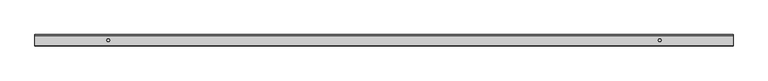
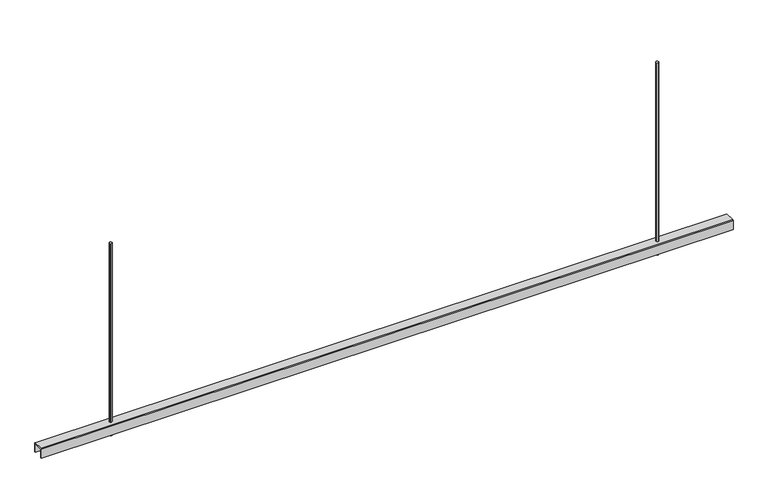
"""IFC4 building model written with IfcOpenShell, lengths in millimetres: proxy geometry, Beared-Hanger : BearedHanger."""

import ifcopenshell
import ifcopenshell.guid

model = None  # the IFC model being written
_history = None  # IfcOwnerHistory: only IFC2X3 demands one
_inside = {}  # id of a spatial element -> (the spatial element, [elements in it])
_under = {}  # id of a project, library or spatial element -> (it, [spatial elements below it])
_declared = {}  # id of a project -> (the project, [libraries it declares])
_typed = {}  # id of a type object -> (the type object, [elements of that type])
_made_of = {}  # id of a material, layer set ... -> (it, [elements and type objects made of it])


def new_model(schema):
    """Start an empty IFC model of exactly this schema.

    Asked for "IFC4X3", IfcOpenShell would pick the latest addendum, in which some entities
    have other attributes; the version numbers below select the first issue.
    IFC2X3 requires an IfcOwnerHistory on every rooted entity: one is made here for all.
    """
    global model, _history
    if schema == "IFC4X3":
        model = ifcopenshell.file(schema_version=(4, 3, 0, 0))
    else:
        model = ifcopenshell.file(schema=schema)
    _inside.clear()
    _under.clear()
    _declared.clear()
    _typed.clear()
    _made_of.clear()
    _history = None
    if model.schema == "IFC2X3":
        org = make("IfcOrganization", Name="unknown")
        user = make(
            "IfcPersonAndOrganization",
            ThePerson=make("IfcPerson", FamilyName="unknown"),
            TheOrganization=org,
        )
        app = make(
            "IfcApplication",
            ApplicationDeveloper=org,
            Version="unknown",
            ApplicationFullName="unknown",
            ApplicationIdentifier="unknown",
        )
        _history = make(
            "IfcOwnerHistory",
            OwningUser=user,
            OwningApplication=app,
            ChangeAction="ADDED",
            CreationDate=0,
        )
    return model


def make(cls, **values):
    """One entity of the class cls with the attributes given. An attribute that is None is left unset."""
    return model.create_entity(
        cls, **{name: value for name, value in values.items() if value is not None}
    )


def rooted(cls, **values):
    """An entity with a GlobalId (a new one), such as an element, a storey or a relation."""
    return make(cls, GlobalId=ifcopenshell.guid.new(), OwnerHistory=_history, **values)


def si_unit(unit_type, name, prefix=None):
    """IfcSIUnit, for example si_unit("LENGTHUNIT", "METRE", prefix="MILLI")."""
    return make("IfcSIUnit", UnitType=unit_type, Prefix=prefix, Name=name)


def assignment(units):
    """IfcUnitAssignment: the units of a project."""
    return None if units is None else make("IfcUnitAssignment", Units=units)


def point(xyz):
    """IfcCartesianPoint."""
    return None if xyz is None else make("IfcCartesianPoint", Coordinates=xyz)


def direction(xyz):
    """IfcDirection."""
    return None if xyz is None else make("IfcDirection", DirectionRatios=xyz)


def frame(location, z_axis=None, x_axis=None):
    """IfcAxis2Placement3D, a coordinate frame: its origin and axes. An axis left out is left unset."""
    return make(
        "IfcAxis2Placement3D",
        Location=point(location),
        Axis=direction(z_axis),
        RefDirection=direction(x_axis),
    )


def origin():
    """The frame at (0, 0, 0) with its axes left unset."""
    return frame((0.0, 0.0, 0.0))


def place(relative_to, where):
    """IfcLocalPlacement: puts the frame where relative to a parent placement (None: the world)."""
    return make(
        "IfcLocalPlacement", PlacementRelTo=relative_to, RelativePlacement=where
    )


def context(
    kind, dimensions, precision=None, world=None, true_north=None, identifier=None
):
    """IfcGeometricRepresentationContext, for example the 3D "Model" context."""
    return make(
        "IfcGeometricRepresentationContext",
        ContextIdentifier=identifier,
        ContextType=kind,
        CoordinateSpaceDimension=dimensions,
        Precision=precision,
        WorldCoordinateSystem=world,
        TrueNorth=true_north,
    )


def project(units=None, contexts=None):
    """IfcProject with its units and contexts."""
    return rooted(
        "IfcProject",
        Name="project",
        RepresentationContexts=contexts,
        UnitsInContext=assignment(units),
    )


def spatial(cls, under=None, at=None, **own):
    """A site, building, storey or space (cls), placed at a placement, below another one or the project."""
    s = rooted(cls, ObjectPlacement=at, **own)
    if under is not None:
        _under.setdefault(under.id(), (under, []))[1].append(s)
    return s


def polyline(points):
    """IfcPolyline through the points."""
    return make("IfcPolyline", Points=[point(p) for p in points])


def outline(outer, holes=None, kind="AREA"):
    """IfcArbitraryClosedProfileDef: a profile drawn as a closed curve; with holes, ...WithVoids."""
    if holes is None:
        return make("IfcArbitraryClosedProfileDef", ProfileType=kind, OuterCurve=outer)
    return make(
        "IfcArbitraryProfileDefWithVoids",
        ProfileType=kind,
        OuterCurve=outer,
        InnerCurves=holes,
    )


def extrude(swept, where, along, depth):
    """IfcExtrudedAreaSolid: the profile swept, set in the frame where, extruded along a direction by depth."""
    return make(
        "IfcExtrudedAreaSolid",
        SweptArea=swept,
        Position=where,
        ExtrudedDirection=direction(along),
        Depth=depth,
    )


def shape(context_of_items, identifier, shape_type, items):
    """IfcShapeRepresentation: the items that make up one representation, for example the "Body"."""
    return make(
        "IfcShapeRepresentation",
        ContextOfItems=context_of_items,
        RepresentationIdentifier=identifier,
        RepresentationType=shape_type,
        Items=items,
    )


def source(mapping_origin, context_of_items, identifier, shape_type, items):
    """IfcRepresentationMap: a shape defined once, which mapped items show again and again."""
    return make(
        "IfcRepresentationMap",
        MappingOrigin=mapping_origin,
        MappedRepresentation=shape(context_of_items, identifier, shape_type, items),
    )


def transform(
    local_origin,
    x_axis=None,
    y_axis=None,
    z_axis=None,
    scale=None,
    scale2=None,
    scale3=None,
    uniform=True,
):
    """IfcCartesianTransformationOperator3D, or its non-uniform kind. x_axis, y_axis, z_axis: its Axis1, 2, 3."""
    if uniform:
        return make(
            "IfcCartesianTransformationOperator3D",
            Axis1=direction(x_axis),
            Axis2=direction(y_axis),
            LocalOrigin=point(local_origin),
            Scale=scale,
            Axis3=direction(z_axis),
        )
    return make(
        "IfcCartesianTransformationOperator3DnonUniform",
        Axis1=direction(x_axis),
        Axis2=direction(y_axis),
        LocalOrigin=point(local_origin),
        Scale=scale,
        Axis3=direction(z_axis),
        Scale2=scale2,
        Scale3=scale3,
    )


def mapped(mapping_source, mapping_target):
    """IfcMappedItem: shows the shape of a source again, moved by a transform."""
    return make(
        "IfcMappedItem", MappingSource=mapping_source, MappingTarget=mapping_target
    )


def made_of(thing, what):
    """Note that an element or type object is made of a material, layer set ...; save() writes the relation."""
    if what is not None:
        _made_of.setdefault(what.id(), (what, []))[1].append(thing)
    return thing


def element(
    cls,
    number,
    at=None,
    inside=None,
    cuts=None,
    type_object=None,
    material=None,
    context=None,
    identifier="Body",
    shape_type=None,
    held_by="IfcProductDefinitionShape",
    body=None,
    shapes=None,
    **own,
):
    """One element of the class cls, such as IfcWall. Its Tag is "e" and its number.

    at: its placement. inside: the storey or other place that contains it. cuts: it is an
    opening in that element (IfcRelVoidsElement). A single representation is given by context,
    identifier, shape_type and body (its items); several are given by shapes. held_by: the class
    of the entity that holds the representations. save() writes the other relations.
    """
    e = rooted(cls, Tag="e%d" % number, ObjectPlacement=at, **own)
    if body is not None:
        shapes = [shape(context, identifier, shape_type, body)]
    if shapes is not None:
        e.Representation = make(held_by, Representations=shapes)
    if inside is not None:
        _inside.setdefault(inside.id(), (inside, []))[1].append(e)
    if cuts is not None:
        rooted(
            "IfcRelVoidsElement", RelatingBuildingElement=cuts, RelatedOpeningElement=e
        )
    if type_object is not None:
        _typed.setdefault(type_object.id(), (type_object, []))[1].append(e)
    return made_of(e, material)


def aggregate(whole, parts):
    """IfcRelAggregates: a whole, such as a stair, and the parts it consists of."""
    return rooted("IfcRelAggregates", RelatingObject=whole, RelatedObjects=parts)


def save(model, path):
    """Write the relations noted so far, then the file.

    IfcRelAggregates (storeys below a building ...), IfcRelContainedInSpatialStructure (elements
    in a storey), IfcRelDefinesByType, IfcRelAssociatesMaterial and IfcRelDeclares: one each for
    every whole, place, type object, material and project.
    """
    for whole, parts in _under.values():
        aggregate(whole, parts)
    for where, things in _inside.values():
        rooted(
            "IfcRelContainedInSpatialStructure",
            RelatedElements=things,
            RelatingStructure=where,
        )
    for kind, things in _typed.values():
        rooted("IfcRelDefinesByType", RelatedObjects=things, RelatingType=kind)
    for what, things in _made_of.values():
        rooted("IfcRelAssociatesMaterial", RelatedObjects=things, RelatingMaterial=what)
    for by, libraries in _declared.values():
        rooted("IfcRelDeclares", RelatingContext=by, RelatedDefinitions=libraries)
    model.write(path)


def mechanical_equipment_3a0a9f88(model_context):
    return source(origin(), model_context, "Body", "SweptSolid", [
        extrude(outline(polyline([(956.0250295, -17.3962402), (956.0250295, 16.7883301), (985.841924, 16.7883301), (985.841924, -17.3962402), (956.0250295, -17.3962402)])), frame((0.0, 0.0, -708.0972816), z_axis=(0.0, 0.0, 1.0), x_axis=(1.0, 0.0, 0.0)), (0.0, 0.0, 1.0), 10.0),
        extrude(outline(polyline([(970.9334767, 5.0), (974.468633, 3.5351562), (975.9340871, 0.0), (974.468633, -3.5351563), (970.9334767, -5.0), (967.3983205, -3.5351563), (965.9334767, 0.0), (967.3983205, 3.5351562), (970.9334767, 5.0)])), frame((0.0, 0.0, -721.6818763), z_axis=(0.0, 0.0, 1.0), x_axis=(1.0, 0.0, 0.0)), (0.0, 0.0, 1.0), 721.6818763),
        extrude(outline(polyline([(-956.0250295, 16.7883301), (-956.0250295, -17.3962402), (-985.841924, -17.3962402), (-985.841924, 16.7883301), (-956.0250295, 16.7883301)])), frame((0.0, 0.0, -708.0972816), z_axis=(0.0, 0.0, 1.0), x_axis=(1.0, 0.0, 0.0)), (0.0, 0.0, 1.0), 10.0),
        extrude(outline(polyline([(-970.9334767, 5.0), (-967.3983205, 3.5351563), (-965.9334767, 0.0), (-967.3983205, -3.5351562), (-970.9334767, -5.0), (-974.468633, -3.5351562), (-975.9340871, 0.0), (-974.468633, 3.5351563), (-970.9334767, 5.0)])), frame((0.0, 0.0, -721.6818763), z_axis=(0.0, 0.0, 1.0), x_axis=(1.0, 0.0, 0.0)), (0.0, 0.0, 1.0), 721.6818763),
        extrude(outline(polyline([(-17.8259277, -671.6818763), (17.1740723, -671.6818763), (19.6740723, -674.1815712), (19.6740723, -708.0972816), (16.7883301, -708.0972816), (16.7883301, -674.6817543), (-17.3962402, -674.6817543), (-17.3962402, -708.0972816), (-20.3259277, -708.0972816), (-20.3259277, -674.1815712), (-17.8259277, -671.6818763)])), frame((-1228.5842896, 0.0, 0.0), z_axis=(1.0, 0.0, 0.0), x_axis=(0.0, 1.0, 0.0)), (0.0, 0.0, 1.0), 2457.1685791),
    ])


if __name__ == "__main__":
    model = new_model("IFC4")
    model_context = context("Model", 3, world=origin())
    ifc_project = project(units=[si_unit("LENGTHUNIT", "METRE", prefix="MILLI")], contexts=[model_context])
    site = spatial("IfcSite", under=ifc_project)
    building = spatial("IfcBuilding", under=site)
    placement = place(None, origin())
    mechanical_equipment_shape = mechanical_equipment_3a0a9f88(model_context)
    element("IfcBuildingElementProxy", 1, Name="Beared-Hanger : BearedHanger", ObjectType="Beared-Hanger : BearedHanger", at=placement, inside=building, context=model_context, shape_type="MappedRepresentation", body=[
        mapped(mechanical_equipment_shape, transform((0.0, 0.0, 0.0), x_axis=(1.0, 0.0, 0.0), y_axis=(0.0, 1.0, 0.0), z_axis=(0.0, 0.0, 1.0))),
    ])
    save(model, "model.ifc")
